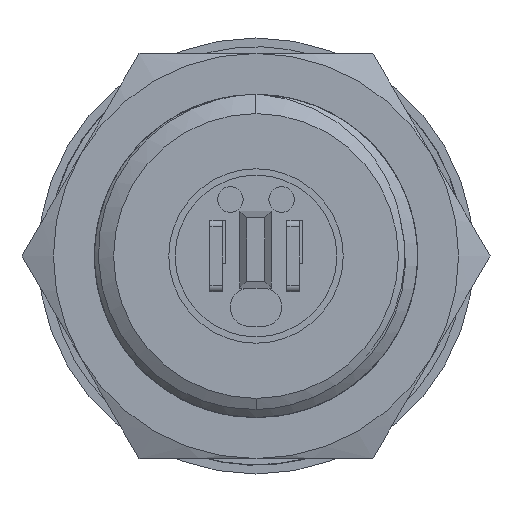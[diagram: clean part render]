
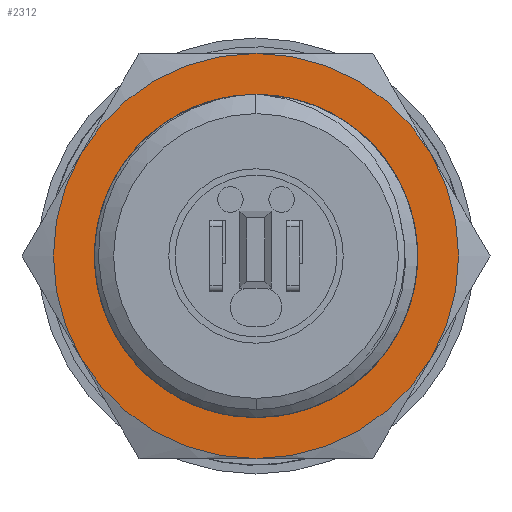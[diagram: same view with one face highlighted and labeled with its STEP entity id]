
A CAD part, left-side view. The second image highlights one B-rep face of the part: STEP entity #2312.
In plain terms, the highlighted planar face has unit normal (-1, 0, 0) as drawn and (0, 0, 1) by its records, which use the part's own axes.
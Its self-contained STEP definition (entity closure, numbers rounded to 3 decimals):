
#438 = EDGE_CURVE ( 'NONE', #8703, #13727, #5040, .T. ) ;
#1091 = ORIENTED_EDGE ( 'NONE', *, *, #6030, .T. ) ;
#1441 = AXIS2_PLACEMENT_3D ( 'NONE', #3754, #6007, #9500 ) ;
#1450 = ORIENTED_EDGE ( 'NONE', *, *, #8152, .T. ) ;
#1721 = CARTESIAN_POINT ( 'NONE',  ( 0., 0., 1.5 ) ) ;
#2312 = ADVANCED_FACE ( 'NONE', ( #8664, #8299 ), #7847, .T. ) ;
#2331 = DIRECTION ( 'NONE',  ( 0., 0., 1. ) ) ;
#2426 = EDGE_LOOP ( 'NONE', ( #1091, #2708 ) ) ;
#2708 = ORIENTED_EDGE ( 'NONE', *, *, #438, .T. ) ;
#3754 = CARTESIAN_POINT ( 'NONE',  ( 0., 0., 1.5 ) ) ;
#3893 = EDGE_CURVE ( 'NONE', #4734, #7191, #4718, .T. ) ;
#4470 = CARTESIAN_POINT ( 'NONE',  ( -7.898, 0., 1.5 ) ) ;
#4570 = DIRECTION ( 'NONE',  ( 1., 0., 0. ) ) ;
#4718 = CIRCLE ( 'NONE', #10827, 7.898 ) ;
#4734 = VERTEX_POINT ( 'NONE', #4470 ) ;
#4914 = EDGE_LOOP ( 'NONE', ( #6794, #1450 ) ) ;
#5040 = CIRCLE ( 'NONE', #8773, 6.054 ) ;
#5631 = CIRCLE ( 'NONE', #10426, 7.898 ) ;
#6007 = DIRECTION ( 'NONE',  ( 0., 0., -1. ) ) ;
#6030 = EDGE_CURVE ( 'NONE', #13727, #8703, #9656, .T. ) ;
#6634 = CARTESIAN_POINT ( 'NONE',  ( 6.054, 0., 1.5 ) ) ;
#6794 = ORIENTED_EDGE ( 'NONE', *, *, #3893, .T. ) ;
#7191 = VERTEX_POINT ( 'NONE', #7469 ) ;
#7469 = CARTESIAN_POINT ( 'NONE',  ( 7.898, 0., 1.5 ) ) ;
#7525 = CARTESIAN_POINT ( 'NONE',  ( -6.054, 0., 1.5 ) ) ;
#7810 = DIRECTION ( 'NONE',  ( 0., 0., 1. ) ) ;
#7847 = PLANE ( 'NONE',  #8135 ) ;
#7848 = CARTESIAN_POINT ( 'NONE',  ( 0., 0., 1.5 ) ) ;
#8135 = AXIS2_PLACEMENT_3D ( 'NONE', #13519, #2331, #4570 ) ;
#8152 = EDGE_CURVE ( 'NONE', #7191, #4734, #5631, .T. ) ;
#8299 = FACE_OUTER_BOUND ( 'NONE', #4914, .T. ) ;
#8438 = DIRECTION ( 'NONE',  ( 1., 0., 0. ) ) ;
#8664 = FACE_BOUND ( 'NONE', #2426, .T. ) ;
#8703 = VERTEX_POINT ( 'NONE', #7525 ) ;
#8773 = AXIS2_PLACEMENT_3D ( 'NONE', #10106, #11181, #11273 ) ;
#8949 = DIRECTION ( 'NONE',  ( 1., 0., 0. ) ) ;
#9500 = DIRECTION ( 'NONE',  ( 1., 0., 0. ) ) ;
#9656 = CIRCLE ( 'NONE', #1441, 6.054 ) ;
#10106 = CARTESIAN_POINT ( 'NONE',  ( 0., 0., 1.5 ) ) ;
#10426 = AXIS2_PLACEMENT_3D ( 'NONE', #7848, #7810, #8949 ) ;
#10827 = AXIS2_PLACEMENT_3D ( 'NONE', #1721, #12975, #8438 ) ;
#11181 = DIRECTION ( 'NONE',  ( 0., 0., -1. ) ) ;
#11273 = DIRECTION ( 'NONE',  ( 1., 0., 0. ) ) ;
#12975 = DIRECTION ( 'NONE',  ( 0., 0., 1. ) ) ;
#13519 = CARTESIAN_POINT ( 'NONE',  ( 0., 0., 1.5 ) ) ;
#13727 = VERTEX_POINT ( 'NONE', #6634 ) ;
